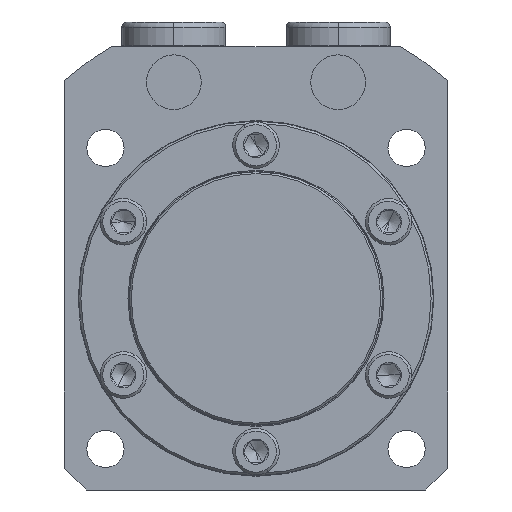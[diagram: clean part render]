
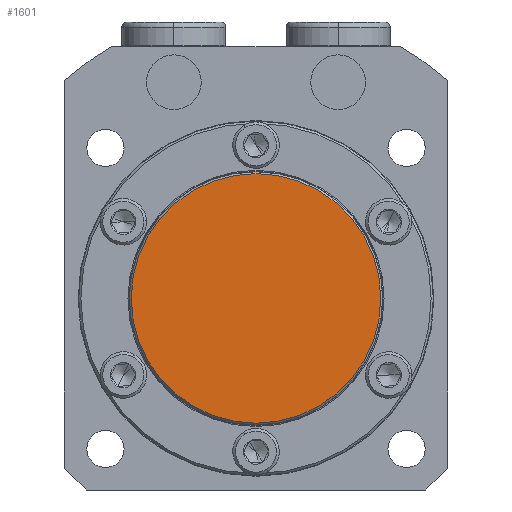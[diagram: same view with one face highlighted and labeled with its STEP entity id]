
A CAD part, front view. The second image highlights one B-rep face of the part: STEP entity #1601.
In plain terms, the highlighted planar face has unit normal (0, -1, 0).
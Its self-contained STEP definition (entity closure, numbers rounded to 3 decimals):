
#269 = ORIENTED_EDGE ( 'NONE', *, *, #4441, .T. ) ;
#270 = ORIENTED_EDGE ( 'NONE', *, *, #437, .T. ) ;
#437 = EDGE_CURVE ( 'NONE', #3480, #3211, #1863, .T. ) ;
#1098 = CARTESIAN_POINT ( 'NONE',  ( 0., -10.5, 0. ) ) ;
#1099 = DIRECTION ( 'NONE',  ( 0., -1., 0. ) ) ;
#1100 = DIRECTION ( 'NONE',  ( 0., 0., -1. ) ) ;
#1295 = CARTESIAN_POINT ( 'NONE',  ( 0., -10.5, 0. ) ) ;
#1319 = FACE_OUTER_BOUND ( 'NONE', #2418, .T. ) ;
#1320 = PLANE ( 'NONE',  #1946 ) ;
#1323 = DIRECTION ( 'NONE',  ( 0., -1., 0. ) ) ;
#1324 = DIRECTION ( 'NONE',  ( 0., 0., -1. ) ) ;
#1601 = ADVANCED_FACE ( 'NONE', ( #1319 ), #1320, .T. ) ;
#1863 = CIRCLE ( 'NONE', #1867, 22.8 ) ;
#1867 = AXIS2_PLACEMENT_3D ( 'NONE', #1098, #1099, #1100 ) ;
#1946 = AXIS2_PLACEMENT_3D ( 'NONE', #1295, #1323, #1324 ) ;
#2418 = EDGE_LOOP ( 'NONE', ( #269, #270 ) ) ;
#3211 = VERTEX_POINT ( 'NONE', #3952 ) ;
#3480 = VERTEX_POINT ( 'NONE', #4064 ) ;
#3553 = CIRCLE ( 'NONE', #3556, 22.8 ) ;
#3556 = AXIS2_PLACEMENT_3D ( 'NONE', #5284, #5285, #5286 ) ;
#3952 = CARTESIAN_POINT ( 'NONE',  ( 0., -10.5, 22.8 ) ) ;
#4064 = CARTESIAN_POINT ( 'NONE',  ( 0., -10.5, -22.8 ) ) ;
#4441 = EDGE_CURVE ( 'NONE', #3211, #3480, #3553, .T. ) ;
#5284 = CARTESIAN_POINT ( 'NONE',  ( 0., -10.5, 0. ) ) ;
#5285 = DIRECTION ( 'NONE',  ( 0., -1., 0. ) ) ;
#5286 = DIRECTION ( 'NONE',  ( 0., 0., -1. ) ) ;
